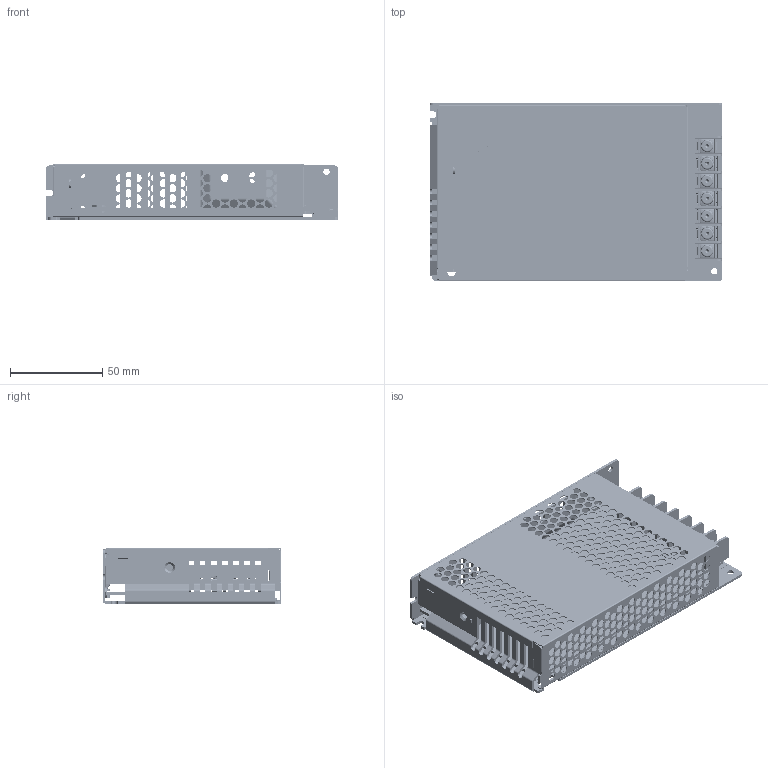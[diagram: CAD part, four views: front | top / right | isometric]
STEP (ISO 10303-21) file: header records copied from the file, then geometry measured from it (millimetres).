
FILE_DESCRIPTION((''),'2;1');
FILE_NAME('CASE_ASSY_ASM','2019-12-13T',('EUNICE.HUANG'),(''),'PRO/ENGINEER BY PARAMETRIC TECHNOLOGY CORPORATION, 2015240','PRO/ENGINEER BY PARAMETRIC TECHNOLOGY CORPORATION, 2015240','');
FILE_SCHEMA(('CONFIG_CONTROL_DESIGN'));
Products named in the file (16): P150W_CHASSIS; CHASSIS-STANDOFF; 150W_COVER; INSULATOR; 150W2BA-R2; YK1001A1-441_07_27_1; YK2002A1-441_07_16_1; YK5001A1-441_07_1_1; YK5002A1-441_07_2_1; YK0002A1-441_07_ASM_2_ASM_1_ASM; JIAOZI_32_1; YK4410703000G_ASM_42_ASM_1_ASM; YK441-7_ASM_1_ASM; YK44107032D0G_FINA_ASM; CLIP; CASE_ASSY_ASM
Assembly tree (26 placements, depth 6):
  CASE_ASSY_ASM
    P150W_CHASSIS
    CHASSIS-STANDOFF
    150W_COVER
    INSULATOR
    150W2BA-R2
    YK44107032D0G_FINA_ASM
      YK441-7_ASM_1_ASM
        YK4410703000G_ASM_42_ASM_1_ASM
          YK1001A1-441_07_27_1
          YK2002A1-441_07_16_1  x6
          YK0002A1-441_07_ASM_2_ASM_1_ASM  x7
            YK5001A1-441_07_1_1
            YK5002A1-441_07_2_1
          JIAOZI_32_1
    CLIP
Bounding box: 159 x 97 x 30 mm (x, y, z)
Volume: 72025.9 mm3; surface area: 145476.6 mm2
Topology: 28 solids, 28 shells, 3872 faces, 11318 edges, 7466 vertices
Faces by surface type: plane 1944, cylinder 1456, bspline 340, torus 82, cone 46, sphere 4
Entity records: 83627 total; most frequent: CARTESIAN_POINT 21177, ORIENTED_EDGE 12928, DIRECTION 12914, EDGE_CURVE 6464, AXIS2_PLACEMENT_3D 4503, VERTEX_POINT 4171, VECTOR 3908, LINE 3908
